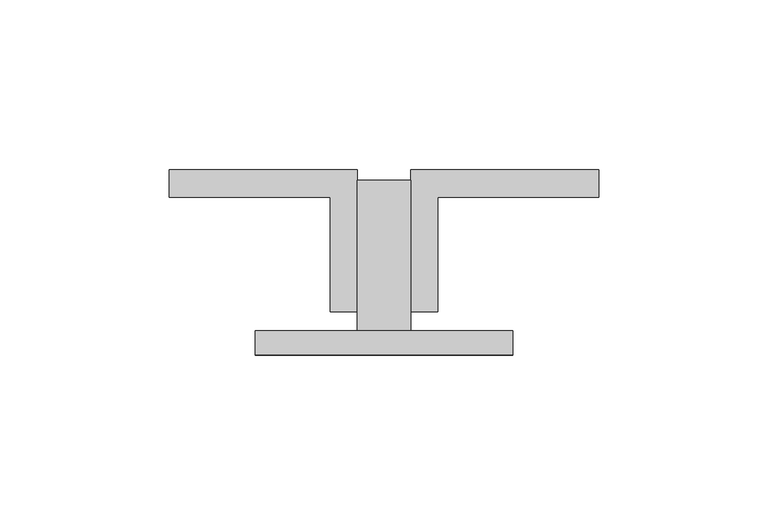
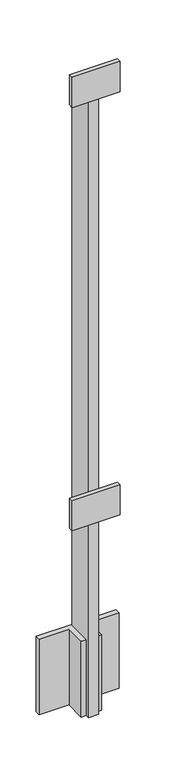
"""IFC4 building model written with IfcOpenShell, lengths in millimetres: proxy geometry, Baluster-End-Post-VIVA-STRUC-Top Mount : WELDED Fascia MOUNT STRUC_STRAIGHT."""

from ifc_helpers import new_model, si_unit, frame, origin, place, context, project, spatial, polyline, outline, extrude, source, transform, mapped, element, save


def building_element_proxy_bd17ef1f(model_context):
    return source(origin(), model_context, "Body", "SweptSolid", [
        extrude(outline(polyline([(-58.9780808, -126.6869934), (-135.1795192, -126.6869934), (-135.1795192, -119.5749934), (-58.9780808, -119.5749934), (-58.9780808, -126.6869934)])), frame((0.0, 0.0, 824.3906928), z_axis=(0.0, 0.0, 1.0), x_axis=(1.0, 0.0, 0.0)), (0.0, 0.0, 1.0), 50.8),
        extrude(outline(polyline([(-58.9780808, -126.6869934), (-135.1795192, -126.6869934), (-135.1795192, -119.5749934), (-58.9780808, -119.5749934), (-58.9780808, -126.6869934)])), frame((0.0, 0.0, 113.1906928), z_axis=(0.0, 0.0, 1.0), x_axis=(1.0, 0.0, 0.0)), (0.0, 0.0, 1.0), 50.8),
        extrude(outline(polyline([(-89.1413, -113.7143584), (-89.1413, -71.8043584), (-33.5807784, -71.8043584), (-33.5807784, -79.9323584), (-81.1403, -79.9323584), (-81.1403, -113.7143584), (-89.1413, -113.7143584)])), frame((0.0, 0.0, -215.4091072), z_axis=(0.0, 0.0, 1.0), x_axis=(1.0, 0.0, 0.0)), (0.0, 0.0, 1.0), 127.0),
        extrude(outline(polyline([(-105.0163, -113.7143584), (-113.0173, -113.7143584), (-113.0173, -79.9323584), (-160.5768216, -79.9323584), (-160.5768216, -71.8043584), (-105.0163, -71.8043584), (-105.0163, -113.7143584)])), frame((0.0, 0.0, -215.4091072), z_axis=(0.0, 0.0, 1.0), x_axis=(1.0, 0.0, 0.0)), (0.0, 0.0, 1.0), 127.0),
        extrude(outline(polyline([(-89.1413, -119.5749934), (-105.0163, -119.5749934), (-105.0163, -75.1249934), (-89.1413, -75.1249934), (-89.1413, -119.5749934)])), frame((0.0, 0.0, -215.4091072), z_axis=(0.0, 0.0, 1.0), x_axis=(1.0, 0.0, 0.0)), (0.0, 0.0, 1.0), 1047.1829072),
    ])


if __name__ == "__main__":
    model = new_model("IFC4")
    model_context = context("Model", 3, world=origin())
    ifc_project = project(units=[si_unit("LENGTHUNIT", "METRE", prefix="MILLI")], contexts=[model_context])
    site = spatial("IfcSite", under=ifc_project)
    building = spatial("IfcBuilding", under=site)
    placement = place(None, origin())
    building_element_proxy_shape = building_element_proxy_bd17ef1f(model_context)
    element("IfcBuildingElementProxy", 1, Name="Baluster-End-Post-VIVA-STRUC-Top Mount : WELDED Fascia MOUNT STRUC_STRAIGHT", ObjectType="Baluster-End-Post-VIVA-STRUC-Top Mount : WELDED Fascia MOUNT STRUC_STRAIGHT", at=placement, inside=building, context=model_context, shape_type="MappedRepresentation", body=[
        mapped(building_element_proxy_shape, transform((0.0, 0.0, 0.0), x_axis=(1.0, 0.0, 0.0), y_axis=(0.0, 1.0, 0.0), z_axis=(0.0, 0.0, 1.0))),
    ])
    save(model, "model.ifc")
